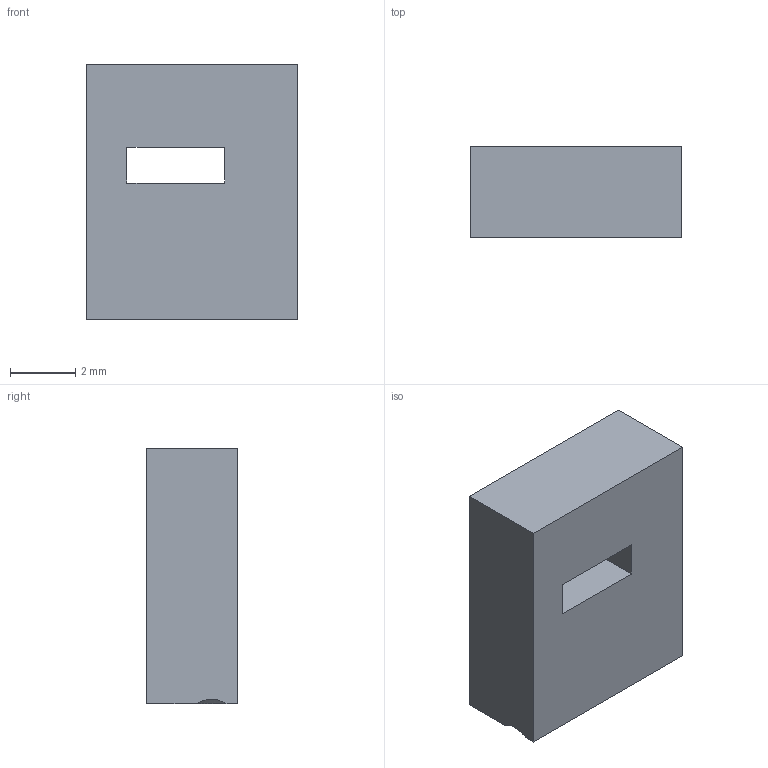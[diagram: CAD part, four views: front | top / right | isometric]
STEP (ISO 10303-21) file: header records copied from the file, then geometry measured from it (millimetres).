
FILE_DESCRIPTION(('Open CASCADE Model'),'2;1');
FILE_NAME('Open CASCADE Shape Model','2026-09-15T14:26:49',('Author'),( 'Open CASCADE'),'Open CASCADE STEP processor 7.7','Open CASCADE 7.7' ,'Unknown');
FILE_SCHEMA(('AUTOMOTIVE_DESIGN { 1 0 10303 214 1 1 1 1 }'));
Length unit declared in the file: millimetre
Products named in the file (1): ADD_P01_J9_COMMON_JUNCTION_SUPPORT
Bounding box: 6.5 x 2.8 x 7.85 mm (x, y, z)
Volume: 133.6 mm3; surface area: 198.7 mm2
Topology: 1 solids, 1 shells, 11 faces, 27 edges, 18 vertices
Faces by surface type: plane 10, cylinder 1
Entity records: 705 total; most frequent: CARTESIAN_POINT 132, DIRECTION 105, LINE 75, VECTOR 75, ORIENTED_EDGE 54, PCURVE 54, DEFINITIONAL_REPRESENTATION 54, EDGE_CURVE 27
